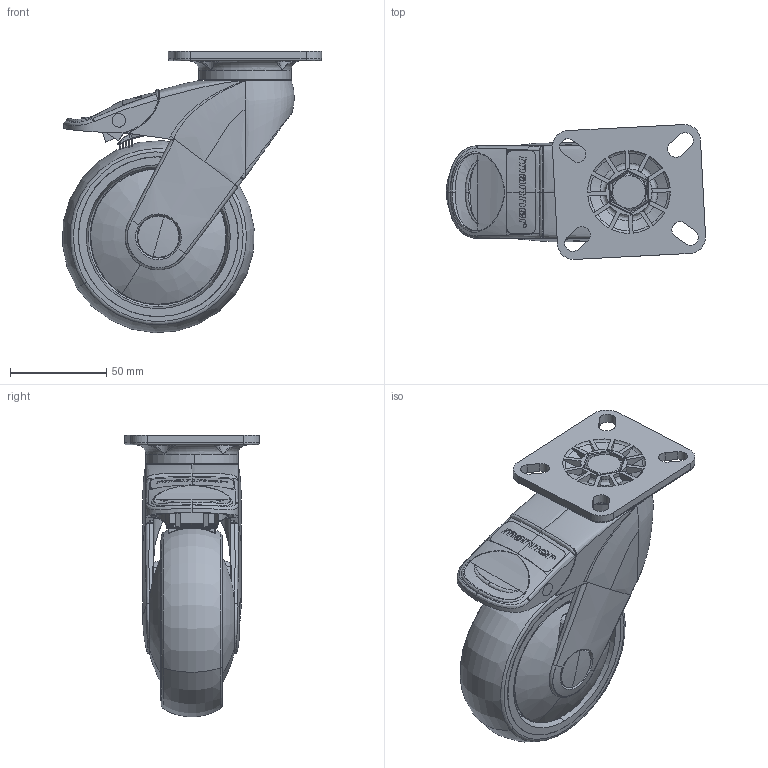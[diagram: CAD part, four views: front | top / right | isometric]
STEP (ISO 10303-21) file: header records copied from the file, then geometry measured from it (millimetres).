
FILE_DESCRIPTION (( 'STEP AP203' ), '1' );
FILE_NAME ('301795_STEP.STEP', '2011-06-21T08:53:46', ( '' ), ( '' ), 'SwSTEP 2.0', 'SolidWorks 2011', '' );
FILE_SCHEMA (( 'CONFIG_CONTROL_DESIGN' ));
Length unit declared in the file: millimetre
Products named in the file (1): 301795_STEP
Bounding box: 134.49 x 70.02 x 146.14 mm (x, y, z)
Surface area: 96796.7 mm2 (no closed solid volume)
Topology: 0 solids, 28 shells, 821 faces, 4013 edges, 3113 vertices
Faces by surface type: bspline 377, plane 198, cylinder 160, cone 50, torus 27, sphere 9
Entity records: 100986 total; most frequent: CARTESIAN_POINT 75765, ORIENTED_EDGE 6584, EDGE_CURVE 3987, VERTEX_POINT 3108, DIRECTION 2702, B_SPLINE_CURVE_WITH_KNOTS 2490, AXIS2_PLACEMENT_3D 957, EDGE_LOOP 873
